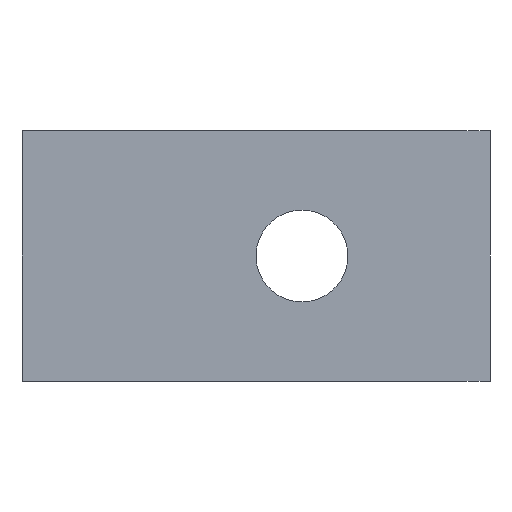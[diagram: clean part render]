
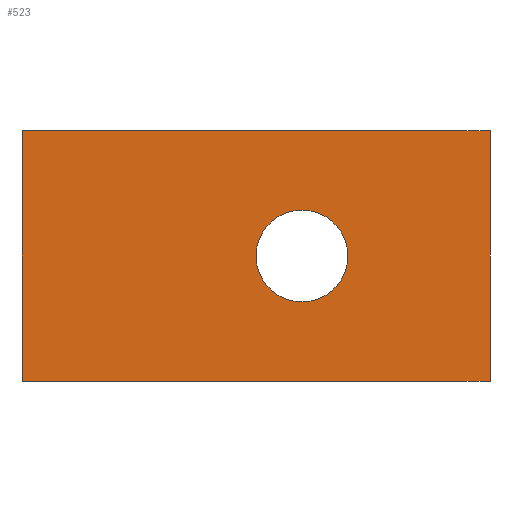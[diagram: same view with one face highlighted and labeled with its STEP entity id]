
A CAD part, front view. The second image highlights one B-rep face of the part: STEP entity #523.
In plain terms, the highlighted planar face has unit normal (0, -1, 0).
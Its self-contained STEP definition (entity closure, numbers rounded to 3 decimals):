
#19 = FACE_OUTER_BOUND ( 'NONE', #273, .T. ) ;
#21 = ORIENTED_EDGE ( 'NONE', *, *, #690, .T. ) ;
#29 = DIRECTION ( 'NONE',  ( 0., 0., -1. ) ) ;
#31 = ORIENTED_EDGE ( 'NONE', *, *, #680, .F. ) ;
#43 = CARTESIAN_POINT ( 'NONE',  ( 56., -140., 15. ) ) ;
#44 = CARTESIAN_POINT ( 'NONE',  ( 56., -140., -15. ) ) ;
#61 = VECTOR ( 'NONE', #29, 1000. ) ;
#98 = CARTESIAN_POINT ( 'NONE',  ( 33.5, -140., 0. ) ) ;
#135 = VECTOR ( 'NONE', #556, 1000. ) ;
#150 = DIRECTION ( 'NONE',  ( 0., -1., 0. ) ) ;
#187 = CIRCLE ( 'NONE', #368, 5.5 ) ;
#191 = DIRECTION ( 'NONE',  ( 0., 0., -1. ) ) ;
#220 = VERTEX_POINT ( 'NONE', #451 ) ;
#272 = AXIS2_PLACEMENT_3D ( 'NONE', #278, #150, #191 ) ;
#273 = EDGE_LOOP ( 'NONE', ( #419, #610, #31, #21 ) ) ;
#278 = CARTESIAN_POINT ( 'NONE',  ( 33.5, -140., 0. ) ) ;
#280 = EDGE_CURVE ( 'NONE', #220, #737, #374, .T. ) ;
#305 = FACE_BOUND ( 'NONE', #720, .T. ) ;
#314 = CARTESIAN_POINT ( 'NONE',  ( 56., -140., 15. ) ) ;
#322 = CARTESIAN_POINT ( 'NONE',  ( 33.5, -140., -5.5 ) ) ;
#326 = CARTESIAN_POINT ( 'NONE',  ( 0., -140., 15. ) ) ;
#338 = EDGE_CURVE ( 'NONE', #437, #705, #648, .T. ) ;
#368 = AXIS2_PLACEMENT_3D ( 'NONE', #98, #470, #413 ) ;
#374 = LINE ( 'NONE', #562, #561 ) ;
#413 = DIRECTION ( 'NONE',  ( 0., 0., -1. ) ) ;
#419 = ORIENTED_EDGE ( 'NONE', *, *, #280, .T. ) ;
#437 = VERTEX_POINT ( 'NONE', #322 ) ;
#451 = CARTESIAN_POINT ( 'NONE',  ( 0., -140., -15. ) ) ;
#466 = CARTESIAN_POINT ( 'NONE',  ( 0., -140., 15. ) ) ;
#470 = DIRECTION ( 'NONE',  ( 0., -1., 0. ) ) ;
#487 = PLANE ( 'NONE',  #741 ) ;
#493 = DIRECTION ( 'NONE',  ( 1., 0., 0. ) ) ;
#501 = DIRECTION ( 'NONE',  ( 1., 0., 0. ) ) ;
#502 = VERTEX_POINT ( 'NONE', #326 ) ;
#503 = DIRECTION ( 'NONE',  ( 0., 0., 1. ) ) ;
#523 = ADVANCED_FACE ( 'NONE', ( #305, #19 ), #487, .F. ) ;
#540 = LINE ( 'NONE', #466, #708 ) ;
#556 = DIRECTION ( 'NONE',  ( 0., 0., -1. ) ) ;
#558 = CARTESIAN_POINT ( 'NONE',  ( 0., -140., 15. ) ) ;
#561 = VECTOR ( 'NONE', #493, 1000. ) ;
#562 = CARTESIAN_POINT ( 'NONE',  ( 0., -140., -15. ) ) ;
#565 = ORIENTED_EDGE ( 'NONE', *, *, #338, .F. ) ;
#568 = EDGE_CURVE ( 'NONE', #590, #737, #638, .T. ) ;
#570 = EDGE_CURVE ( 'NONE', #705, #437, #187, .T. ) ;
#573 = LINE ( 'NONE', #558, #61 ) ;
#590 = VERTEX_POINT ( 'NONE', #314 ) ;
#600 = ORIENTED_EDGE ( 'NONE', *, *, #570, .F. ) ;
#610 = ORIENTED_EDGE ( 'NONE', *, *, #568, .F. ) ;
#619 = CARTESIAN_POINT ( 'NONE',  ( 33.5, -140., 5.5 ) ) ;
#638 = LINE ( 'NONE', #43, #135 ) ;
#648 = CIRCLE ( 'NONE', #272, 5.5 ) ;
#680 = EDGE_CURVE ( 'NONE', #502, #590, #540, .T. ) ;
#690 = EDGE_CURVE ( 'NONE', #502, #220, #573, .T. ) ;
#705 = VERTEX_POINT ( 'NONE', #619 ) ;
#708 = VECTOR ( 'NONE', #501, 1000. ) ;
#711 = DIRECTION ( 'NONE',  ( 0., 1., 0. ) ) ;
#720 = EDGE_LOOP ( 'NONE', ( #565, #600 ) ) ;
#728 = CARTESIAN_POINT ( 'NONE',  ( 0., -140., 15. ) ) ;
#737 = VERTEX_POINT ( 'NONE', #44 ) ;
#741 = AXIS2_PLACEMENT_3D ( 'NONE', #728, #711, #503 ) ;
